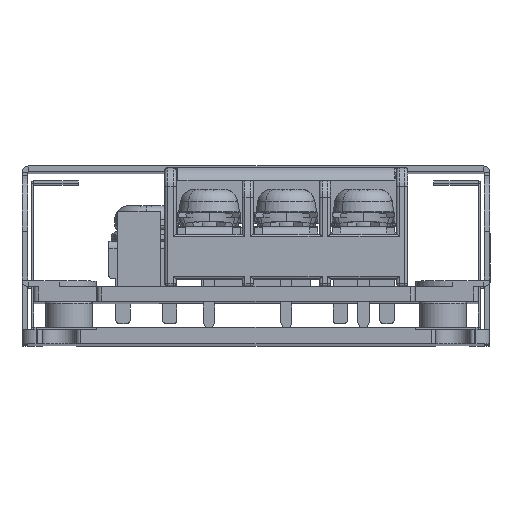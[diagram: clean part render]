
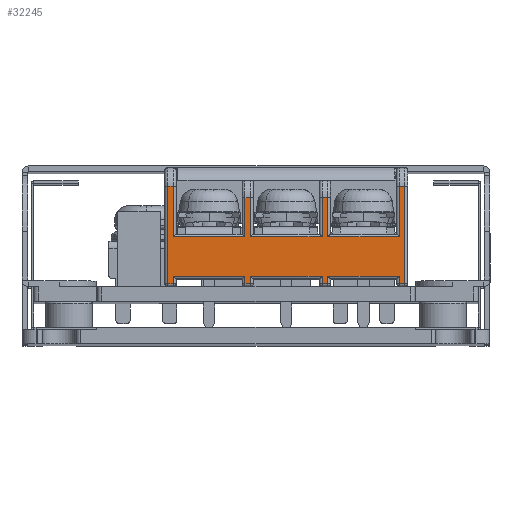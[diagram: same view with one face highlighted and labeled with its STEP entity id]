
A CAD part, top view. The second image highlights one B-rep face of the part: STEP entity #32245.
In plain terms, the highlighted planar face has unit normal (0, 0, 1) as drawn and (-1, 0, 0) by its records, which use the part's own axes.
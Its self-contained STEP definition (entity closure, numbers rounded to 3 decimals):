
#25801=DIRECTION('',(0.,0.,1.));
#25802=VECTOR('',#25801,10.4);
#25803=CARTESIAN_POINT('',(-7.6,0.3,-4.35));
#25804=LINE('',#25803,#25802);
#25846=DIRECTION('',(0.,-1.,0.));
#25847=VECTOR('',#25846,0.6);
#25848=CARTESIAN_POINT('',(-7.6,0.9,-4.35));
#25849=LINE('',#25848,#25847);
#25869=DIRECTION('',(0.,0.,-1.));
#25870=VECTOR('',#25869,5.4);
#25871=CARTESIAN_POINT('',(-7.6,0.9,1.05));
#25872=LINE('',#25871,#25870);
#25877=DIRECTION('',(0.,0.,-1.));
#25878=VECTOR('',#25877,10.4);
#25879=CARTESIAN_POINT('',(-7.6,25.65,6.05));
#25880=LINE('',#25879,#25878);
#26211=DIRECTION('',(0.,-1.,0.));
#26212=VECTOR('',#26211,0.6);
#26213=CARTESIAN_POINT('',(-7.6,25.65,-4.35));
#26214=LINE('',#26213,#26212);
#26238=DIRECTION('',(0.,0.,1.));
#26239=VECTOR('',#26238,5.4);
#26240=CARTESIAN_POINT('',(-7.6,25.05,-4.35));
#26241=LINE('',#26240,#26239);
#26256=DIRECTION('',(0.,-1.,0.));
#26257=VECTOR('',#26256,7.65);
#26258=CARTESIAN_POINT('',(-7.6,25.05,1.05));
#26259=LINE('',#26258,#26257);
#26368=DIRECTION('',(0.,-1.,0.));
#26369=VECTOR('',#26368,0.6);
#26370=CARTESIAN_POINT('',(-7.6,17.4,-3.15));
#26371=LINE('',#26370,#26369);
#26702=DIRECTION('',(0.,-1.,0.));
#26703=VECTOR('',#26702,0.6);
#26704=CARTESIAN_POINT('',(-7.6,9.15,-3.15));
#26705=LINE('',#26704,#26703);
#26782=DIRECTION('',(0.,0.,1.));
#26783=VECTOR('',#26782,4.2);
#26784=CARTESIAN_POINT('',(-7.6,8.55,-3.15));
#26785=LINE('',#26784,#26783);
#26796=DIRECTION('',(0.,-1.,0.));
#26797=VECTOR('',#26796,7.65);
#26798=CARTESIAN_POINT('',(-7.6,8.55,1.05));
#26799=LINE('',#26798,#26797);
#27006=DIRECTION('',(0.,1.,0.));
#27007=VECTOR('',#27006,7.65);
#27008=CARTESIAN_POINT('',(-7.6,0.9,5.25));
#27009=LINE('',#27008,#27007);
#27024=DIRECTION('',(0.,0.,-1.));
#27025=VECTOR('',#27024,0.8);
#27026=CARTESIAN_POINT('',(-7.6,0.9,6.05));
#27027=LINE('',#27026,#27025);
#27053=DIRECTION('',(0.,1.,0.));
#27054=VECTOR('',#27053,0.6);
#27055=CARTESIAN_POINT('',(-7.6,0.3,6.05));
#27056=LINE('',#27055,#27054);
#27191=DIRECTION('',(0.,0.,1.));
#27192=VECTOR('',#27191,0.8);
#27193=CARTESIAN_POINT('',(-7.6,8.55,5.25));
#27194=LINE('',#27193,#27192);
#27203=DIRECTION('',(0.,1.,0.));
#27204=VECTOR('',#27203,0.6);
#27205=CARTESIAN_POINT('',(-7.6,8.55,6.05));
#27206=LINE('',#27205,#27204);
#27226=DIRECTION('',(0.,0.,-1.));
#27227=VECTOR('',#27226,0.8);
#27228=CARTESIAN_POINT('',(-7.6,9.15,6.05));
#27229=LINE('',#27228,#27227);
#27244=DIRECTION('',(0.,1.,0.));
#27245=VECTOR('',#27244,7.65);
#27246=CARTESIAN_POINT('',(-7.6,9.15,5.25));
#27247=LINE('',#27246,#27245);
#27450=DIRECTION('',(0.,-1.,0.));
#27451=VECTOR('',#27450,7.65);
#27452=CARTESIAN_POINT('',(-7.6,16.8,1.05));
#27453=LINE('',#27452,#27451);
#27468=DIRECTION('',(0.,0.,1.));
#27469=VECTOR('',#27468,4.2);
#27470=CARTESIAN_POINT('',(-7.6,16.8,-3.15));
#27471=LINE('',#27470,#27469);
#27482=DIRECTION('',(0.,0.,-1.));
#27483=VECTOR('',#27482,4.2);
#27484=CARTESIAN_POINT('',(-7.6,9.15,1.05));
#27485=LINE('',#27484,#27483);
#27974=DIRECTION('',(0.,0.,1.));
#27975=VECTOR('',#27974,0.8);
#27976=CARTESIAN_POINT('',(-7.6,16.8,5.25));
#27977=LINE('',#27976,#27975);
#27998=DIRECTION('',(0.,1.,0.));
#27999=VECTOR('',#27998,0.6);
#28000=CARTESIAN_POINT('',(-7.6,16.8,6.05));
#28001=LINE('',#28000,#27999);
#28035=DIRECTION('',(0.,0.,-1.));
#28036=VECTOR('',#28035,0.8);
#28037=CARTESIAN_POINT('',(-7.6,17.4,6.05));
#28038=LINE('',#28037,#28036);
#28039=DIRECTION('',(0.,1.,0.));
#28040=VECTOR('',#28039,7.65);
#28041=CARTESIAN_POINT('',(-7.6,17.4,5.25));
#28042=LINE('',#28041,#28040);
#28061=DIRECTION('',(0.,0.,1.));
#28062=VECTOR('',#28061,0.8);
#28063=CARTESIAN_POINT('',(-7.6,25.05,5.25));
#28064=LINE('',#28063,#28062);
#28128=DIRECTION('',(0.,1.,0.));
#28129=VECTOR('',#28128,0.6);
#28130=CARTESIAN_POINT('',(-7.6,25.05,6.05));
#28131=LINE('',#28130,#28129);
#29640=DIRECTION('',(0.,0.,-1.));
#29641=VECTOR('',#29640,4.2);
#29642=CARTESIAN_POINT('',(-7.6,17.4,1.05));
#29643=LINE('',#29642,#29641);
#29915=CARTESIAN_POINT('',(-7.6,0.3,6.05));
#29916=VERTEX_POINT('',#29915);
#29917=CARTESIAN_POINT('',(-7.6,0.3,-4.35));
#29918=VERTEX_POINT('',#29917);
#29921=CARTESIAN_POINT('',(-7.6,0.9,-4.35));
#29922=VERTEX_POINT('',#29921);
#29923=CARTESIAN_POINT('',(-7.6,0.9,1.05));
#29924=VERTEX_POINT('',#29923);
#29925=CARTESIAN_POINT('',(-7.6,25.65,6.05));
#29926=CARTESIAN_POINT('',(-7.6,25.65,-4.35));
#29927=VERTEX_POINT('',#29925);
#29928=VERTEX_POINT('',#29926);
#29929=CARTESIAN_POINT('',(-7.6,25.05,6.05));
#29930=VERTEX_POINT('',#29929);
#29931=CARTESIAN_POINT('',(-7.6,25.05,5.25));
#29932=VERTEX_POINT('',#29931);
#29933=CARTESIAN_POINT('',(-7.6,17.4,5.25));
#29934=VERTEX_POINT('',#29933);
#29935=CARTESIAN_POINT('',(-7.6,17.4,6.05));
#29936=VERTEX_POINT('',#29935);
#29937=CARTESIAN_POINT('',(-7.6,16.8,6.05));
#29938=VERTEX_POINT('',#29937);
#29939=CARTESIAN_POINT('',(-7.6,16.8,5.25));
#29940=VERTEX_POINT('',#29939);
#29941=CARTESIAN_POINT('',(-7.6,9.15,5.25));
#29942=VERTEX_POINT('',#29941);
#29943=CARTESIAN_POINT('',(-7.6,9.15,6.05));
#29944=VERTEX_POINT('',#29943);
#29945=CARTESIAN_POINT('',(-7.6,8.55,6.05));
#29946=VERTEX_POINT('',#29945);
#29947=CARTESIAN_POINT('',(-7.6,8.55,5.25));
#29948=VERTEX_POINT('',#29947);
#29949=CARTESIAN_POINT('',(-7.6,0.9,5.25));
#29950=VERTEX_POINT('',#29949);
#29951=CARTESIAN_POINT('',(-7.6,0.9,6.05));
#29952=VERTEX_POINT('',#29951);
#29953=CARTESIAN_POINT('',(-7.6,8.55,1.05));
#29954=VERTEX_POINT('',#29953);
#29955=CARTESIAN_POINT('',(-7.6,8.55,-3.15));
#29956=VERTEX_POINT('',#29955);
#29957=CARTESIAN_POINT('',(-7.6,9.15,-3.15));
#29958=VERTEX_POINT('',#29957);
#29959=CARTESIAN_POINT('',(-7.6,9.15,1.05));
#29960=VERTEX_POINT('',#29959);
#29961=CARTESIAN_POINT('',(-7.6,16.8,1.05));
#29962=VERTEX_POINT('',#29961);
#29963=CARTESIAN_POINT('',(-7.6,16.8,-3.15));
#29964=VERTEX_POINT('',#29963);
#29965=CARTESIAN_POINT('',(-7.6,17.4,-3.15));
#29966=VERTEX_POINT('',#29965);
#29967=CARTESIAN_POINT('',(-7.6,17.4,1.05));
#29968=VERTEX_POINT('',#29967);
#29969=CARTESIAN_POINT('',(-7.6,25.05,1.05));
#29970=VERTEX_POINT('',#29969);
#29971=CARTESIAN_POINT('',(-7.6,25.05,-4.35));
#29972=VERTEX_POINT('',#29971);
#32185=CARTESIAN_POINT('',(-7.6,0.,-6.35));
#32186=DIRECTION('',(-1.,0.,0.));
#32187=DIRECTION('',(0.,0.,1.));
#32188=AXIS2_PLACEMENT_3D('',#32185,#32186,#32187);
#32189=PLANE('',#32188);
#32191=ORIENTED_EDGE('',*,*,#32190,.F.);
#32193=ORIENTED_EDGE('',*,*,#32192,.F.);
#32195=ORIENTED_EDGE('',*,*,#32194,.F.);
#32197=ORIENTED_EDGE('',*,*,#32196,.F.);
#32199=ORIENTED_EDGE('',*,*,#32198,.F.);
#32201=ORIENTED_EDGE('',*,*,#32200,.F.);
#32203=ORIENTED_EDGE('',*,*,#32202,.F.);
#32205=ORIENTED_EDGE('',*,*,#32204,.F.);
#32207=ORIENTED_EDGE('',*,*,#32206,.F.);
#32209=ORIENTED_EDGE('',*,*,#32208,.F.);
#32211=ORIENTED_EDGE('',*,*,#32210,.F.);
#32213=ORIENTED_EDGE('',*,*,#32212,.F.);
#32215=ORIENTED_EDGE('',*,*,#32214,.F.);
#32217=ORIENTED_EDGE('',*,*,#32216,.F.);
#32218=ORIENTED_EDGE('',*,*,#31998,.F.);
#32219=ORIENTED_EDGE('',*,*,#32130,.F.);
#32220=ORIENTED_EDGE('',*,*,#32169,.F.);
#32222=ORIENTED_EDGE('',*,*,#32221,.F.);
#32224=ORIENTED_EDGE('',*,*,#32223,.F.);
#32226=ORIENTED_EDGE('',*,*,#32225,.F.);
#32228=ORIENTED_EDGE('',*,*,#32227,.F.);
#32230=ORIENTED_EDGE('',*,*,#32229,.F.);
#32232=ORIENTED_EDGE('',*,*,#32231,.F.);
#32234=ORIENTED_EDGE('',*,*,#32233,.F.);
#32236=ORIENTED_EDGE('',*,*,#32235,.F.);
#32238=ORIENTED_EDGE('',*,*,#32237,.F.);
#32240=ORIENTED_EDGE('',*,*,#32239,.F.);
#32242=ORIENTED_EDGE('',*,*,#32241,.F.);
#32243=EDGE_LOOP('',(#32191,#32193,#32195,#32197,#32199,#32201,#32203,#32205,
#32207,#32209,#32211,#32213,#32215,#32217,#32218,#32219,#32220,#32222,#32224,
#32226,#32228,#32230,#32232,#32234,#32236,#32238,#32240,#32242));
#32244=FACE_OUTER_BOUND('',#32243,.F.);
#31998=EDGE_CURVE('',#29918,#29916,#25804,.T.);
#32130=EDGE_CURVE('',#29922,#29918,#25849,.T.);
#32169=EDGE_CURVE('',#29924,#29922,#25872,.T.);
#32190=EDGE_CURVE('',#29927,#29928,#25880,.T.);
#32192=EDGE_CURVE('',#29930,#29927,#28131,.T.);
#32194=EDGE_CURVE('',#29932,#29930,#28064,.T.);
#32196=EDGE_CURVE('',#29934,#29932,#28042,.T.);
#32198=EDGE_CURVE('',#29936,#29934,#28038,.T.);
#32200=EDGE_CURVE('',#29938,#29936,#28001,.T.);
#32202=EDGE_CURVE('',#29940,#29938,#27977,.T.);
#32204=EDGE_CURVE('',#29942,#29940,#27247,.T.);
#32206=EDGE_CURVE('',#29944,#29942,#27229,.T.);
#32208=EDGE_CURVE('',#29946,#29944,#27206,.T.);
#32210=EDGE_CURVE('',#29948,#29946,#27194,.T.);
#32212=EDGE_CURVE('',#29950,#29948,#27009,.T.);
#32214=EDGE_CURVE('',#29952,#29950,#27027,.T.);
#32216=EDGE_CURVE('',#29916,#29952,#27056,.T.);
#32221=EDGE_CURVE('',#29954,#29924,#26799,.T.);
#32223=EDGE_CURVE('',#29956,#29954,#26785,.T.);
#32225=EDGE_CURVE('',#29958,#29956,#26705,.T.);
#32227=EDGE_CURVE('',#29960,#29958,#27485,.T.);
#32229=EDGE_CURVE('',#29962,#29960,#27453,.T.);
#32231=EDGE_CURVE('',#29964,#29962,#27471,.T.);
#32233=EDGE_CURVE('',#29966,#29964,#26371,.T.);
#32235=EDGE_CURVE('',#29968,#29966,#29643,.T.);
#32237=EDGE_CURVE('',#29970,#29968,#26259,.T.);
#32239=EDGE_CURVE('',#29972,#29970,#26241,.T.);
#32241=EDGE_CURVE('',#29928,#29972,#26214,.T.);
#32245=ADVANCED_FACE('',(#32244),#32189,.T.);
